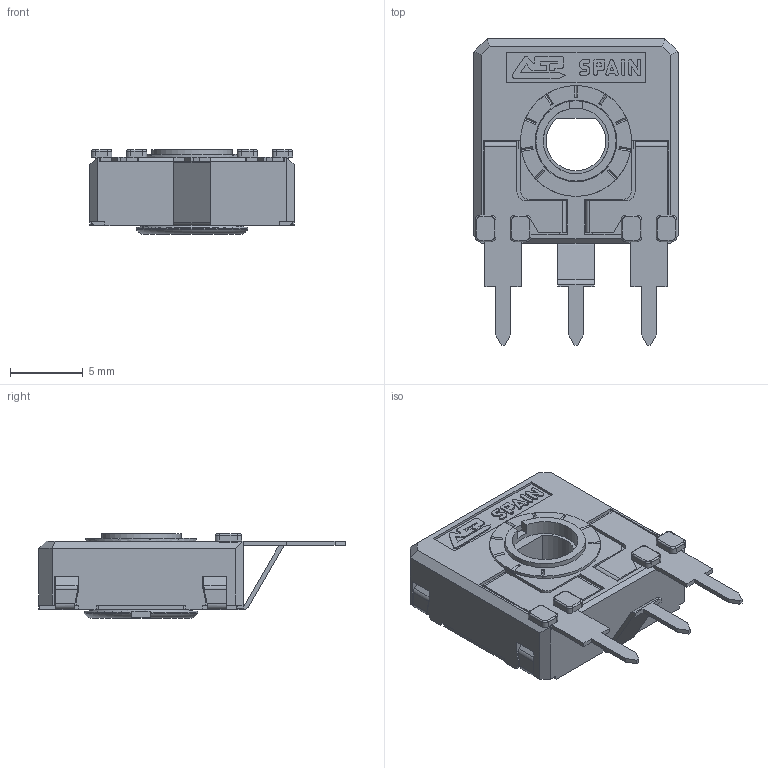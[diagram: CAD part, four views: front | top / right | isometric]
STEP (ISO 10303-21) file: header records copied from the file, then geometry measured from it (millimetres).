
FILE_DESCRIPTION(/* description */ (''),/* implementation_level */ '2;1');
FILE_NAME(/* name */ '\\SERVERACP\intercambio\Ignacio Santa Cecilia\Nueva WEB 2025\CA14 - CE14\CA14DH0.stp',/* time_stamp */ '2025-06-06T10:12:16+02:00',/* author */ ('CEM'),/* organization */ (''),/* preprocessor_version */ 'ST-DEVELOPER v17',/* originating_system */ 'Autodesk Inventor 2018',/* authorisation */ '');
FILE_SCHEMA (('AUTOMOTIVE_DESIGN { 1 0 10303 214 3 1 1 }'));
Length unit declared in the file: millimetre
Products named in the file (1): CARCASA CA14 PGA
Bounding box: 14 x 21 x 5.8 mm (x, y, z)
Volume: 528.9 mm3; surface area: 1464.4 mm2
Topology: 1 solids, 1 shells, 661 faces, 1867 edges, 1202 vertices
Faces by surface type: plane 490, cylinder 134, torus 23, bspline 8, cone 6
Full cylindrical faces by diameter (mm): 4.5 x1, 5.5 x1, 5.6 x1, 5.752 x1, 6.8 x1, 7.6 x1
Entity records: 21585 total; most frequent: CARTESIAN_POINT 4028, ORIENTED_EDGE 3734, DIRECTION 3484, EDGE_CURVE 1867, LINE 1468, VECTOR 1468, VERTEX_POINT 1202, AXIS2_PLACEMENT_3D 1008
